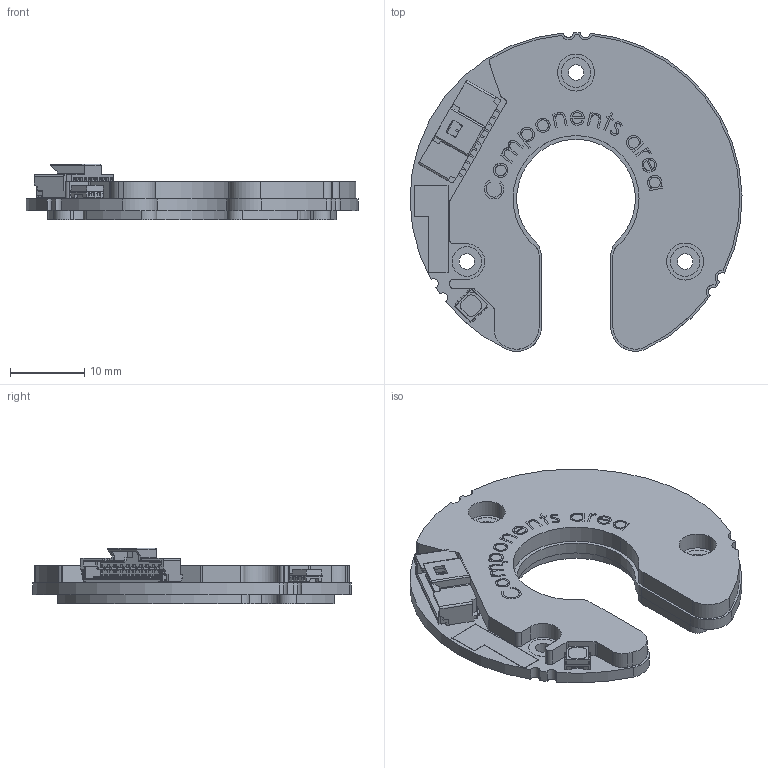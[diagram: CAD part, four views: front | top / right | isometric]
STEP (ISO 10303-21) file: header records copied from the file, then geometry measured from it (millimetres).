
FILE_DESCRIPTION (( 'STEP AP214' ), '1' );
FILE_NAME ('Orbis_BR10_BBM_brez_PVL_v01.STEP', '2025-05-19T12:58:29', ( '' ), ( '' ), 'SwSTEP 2.0', 'SolidWorks 2024', '' );
FILE_SCHEMA (( 'AUTOMOTIVE_DESIGN' ));
Length unit declared in the file: millimetre
Products named in the file (1): Orbis_BR10_BBM_brez_PVL_v01
Bounding box: 44.79 x 43.02 x 7.54 mm (x, y, z)
Volume: 5114.9 mm3; surface area: 4152 mm2
Topology: 1 solids, 1 shells, 1617 faces, 4411 edges, 2834 vertices
Faces by surface type: plane 1072, bspline 249, cylinder 204, cone 92
Entity records: 61855 total; most frequent: CARTESIAN_POINT 21740, ORIENTED_EDGE 8820, DIRECTION 7143, EDGE_CURVE 4410, VECTOR 3413, LINE 3413, VERTEX_POINT 2834, AXIS2_PLACEMENT_3D 1865
